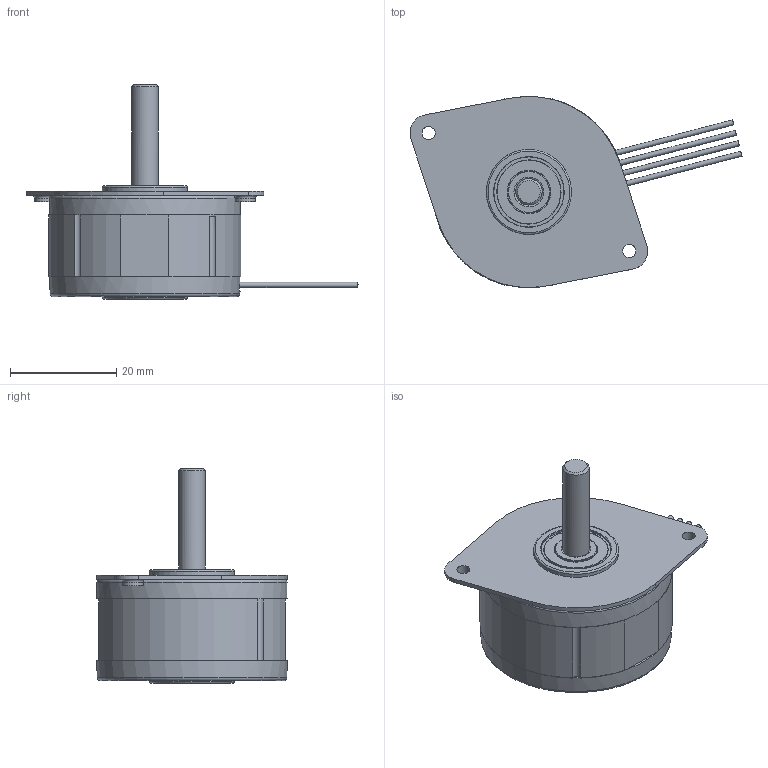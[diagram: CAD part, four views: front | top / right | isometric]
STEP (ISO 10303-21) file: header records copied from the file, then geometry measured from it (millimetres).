
FILE_DESCRIPTION((''),'2;1');
FILE_NAME('L:\3D ipt part for Web\Standard Motor\3709 Model\3709V option 6 to 8.stp','2009-03-24T14:40:53',('hpham'),(''),'Autodesk Inventor 2009','Autodesk Inventor 2009','');
FILE_SCHEMA(('AUTOMOTIVE_DESIGN { 1 0 10303 214 1 1 1 1 }'));
Length unit declared in the file: inch
Products named in the file (1): 3709V option 6 to 8
Bounding box: 62.51 x 35.98 x 40.38 mm (x, y, z)
Surface area: 19893.3 mm2
Topology: 38 solids, 39 shells, 3492 faces, 10995 edges, 7209 vertices
Faces by surface type: cylinder 1608, plane 1552, bspline 255, torus 56, cone 21
Full cylindrical faces by diameter (mm): 0.889 x24, 0.978 x4, 2.464 x1, 3.8 x2, 4.986 x2, 4.999 x1, 5.001 x2, 5.131 x1, 5.207 x1, 7.811 x2, 7.823 x2, 7.925 x1, 8.141 x2, 12.103 x2, 13.208 x2, 15.999 x2, 16.02 x1, 16.998 x2, 17.297 x1, 20.066 x1, 20.396 x1, 21.852 x1, 23.165 x1, 30.988 x2
Entity records: 132124 total; most frequent: CARTESIAN_POINT 30384, ORIENTED_EDGE 21702, DIRECTION 21304, EDGE_CURVE 10851, AXIS2_PLACEMENT_3D 7817, VERTEX_POINT 7176, VECTOR 5670, LINE 5670
